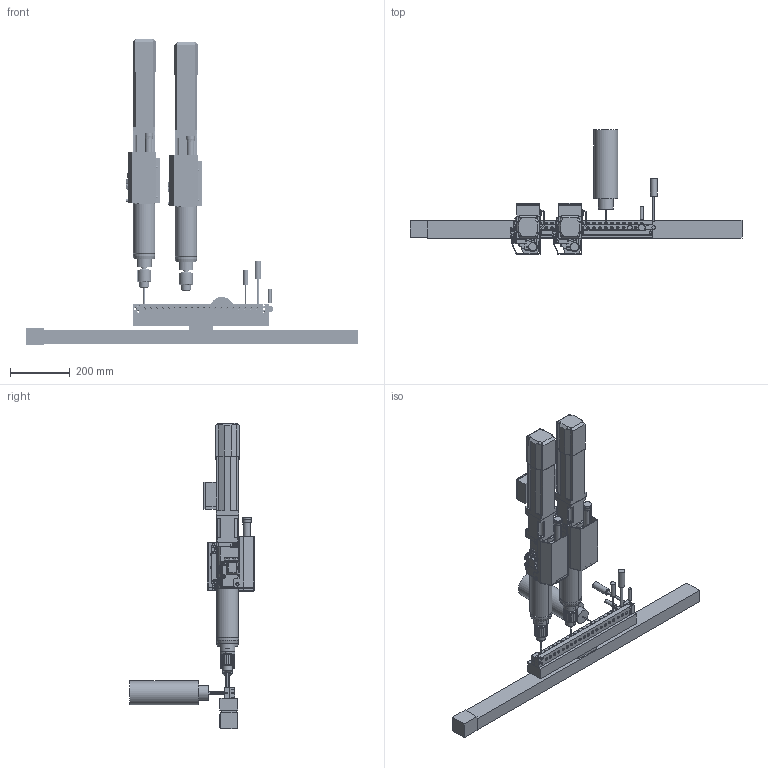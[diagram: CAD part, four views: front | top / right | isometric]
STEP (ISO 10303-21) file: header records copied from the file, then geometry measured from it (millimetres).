
FILE_DESCRIPTION(('Open CASCADE Model'),'2;1');
FILE_NAME('Open CASCADE Shape Model','2026-07-29T09:21:27',('Author'),( 'Open CASCADE'),'Open CASCADE STEP processor 7.8','Open CASCADE 7.8' ,'Unknown');
FILE_SCHEMA(('AUTOMOTIVE_DESIGN { 1 0 10303 214 1 1 1 1 }'));
Length unit declared in the file: millimetre
Products named in the file (37): STATION-2; B_bolt_00; B_bolt_01; B_bolt_02; B_bolt_03; B_bolt_04; B_bolt_05; B_bolt_06; B_bolt_07; B_bolt_08; B_rail_09; B_bolt_10; B_bolt_11; B_bolt_12; B_bolt_13; B_bolt_14; B_bolt_15; B_bolt_16; B_bolt_17; B_bolt_18; B_bolt_19; B_bolt_20; B_pin_21; B_rail_22; B1_chamfer_head; B1_tool; B2_drill_head; B2_tool; B3_deburr_spindle; B3_tool; B4_air_nozzle; B5_borescope_top; B5_laser_side; B6_borescope_side; B6_laser_top; B_carrier_beam; B_slide_module
Assembly tree (36 placements, depth 2):
  STATION-2
    B_bolt_00
    B_bolt_01
    B_bolt_02
    B_bolt_03
    B_bolt_04
    B_bolt_05
    B_bolt_06
    B_bolt_07
    B_bolt_08
    B_rail_09
    B_bolt_10
    B_bolt_11
    B_bolt_12
    B_bolt_13
    B_bolt_14
    B_bolt_15
    B_bolt_16
    B_bolt_17
    B_bolt_18
    B_bolt_19
    B_bolt_20
    B_pin_21
    B_rail_22
    B1_chamfer_head
    B1_tool
    B2_drill_head
    B2_tool
    B3_deburr_spindle
    B3_tool
    B4_air_nozzle
    B5_borescope_top
    B5_laser_side
    B6_borescope_side
    B6_laser_top
    B_carrier_beam
    B_slide_module
Bounding box: 1110 x 416.48 x 1021.8 mm (x, y, z)
Volume: 6108608.7 mm3; surface area: 1647634.3 mm2
Topology: 36 solids, 162 shells, 3439 faces, 12422 edges, 9192 vertices
Faces by surface type: plane 1803, cylinder 1073, cone 481, bspline 56, torus 20, revolution 6
Full cylindrical faces by diameter (mm): 3 x42, 3.5 x2, 4 x1, 5 x8, 6 x21, 6.5 x2, 6.8 x4, 8 x32, 8.75 x20, 10 x60, 12 x22, 14 x2, 16 x1, 17 x20, 22 x2, 50 x1, 80 x1
Entity records: 344921 total; most frequent: CARTESIAN_POINT 134740, DIRECTION 37576, LINE 21344, VECTOR 21344, ORIENTED_EDGE 20150, PCURVE 20150, DEFINITIONAL_REPRESENTATION 20150, EDGE_CURVE 12401
